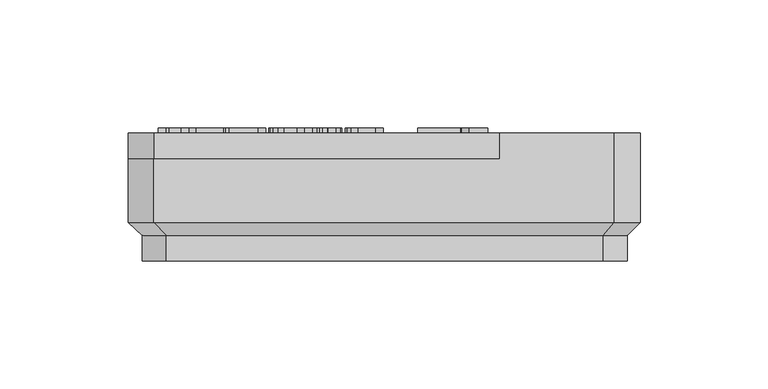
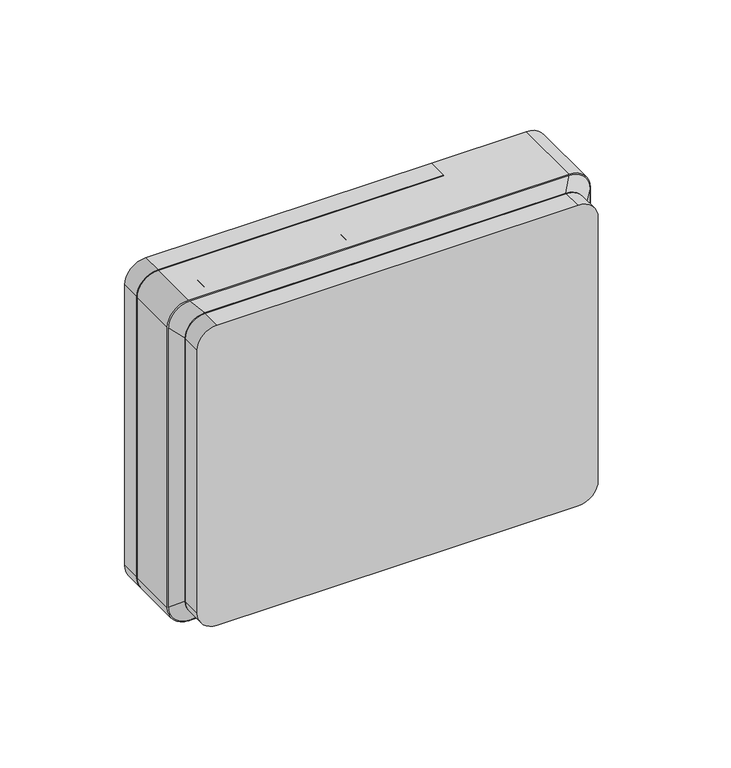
"""IFC4 building model written with IfcOpenShell, lengths in millimetres: proxy geometry, RBZ_БлокИндикацииИУправления_Рубеж_Рубеж-БИУ(БИ) : Рубеж-БИУ."""

from ifc_helpers import new_model, si_unit, point, frame, frame_2d, origin, place, context, project, spatial, polyline, circle_curve, trimmed, segment, composite_curve, outline, extrude, source, transform, mapped, element, save
from ifc_brep_helpers import plane_surface, cylinder_surface, revolved_surface, spline_surface, advanced_brep


def electrical_equipment_3322614a(model_context):
    return source(origin(), model_context, "Body", "SolidModel", [
        extrude(outline(composite_curve([segment(polyline([(57.5, 44.75), (160.0, 44.75), (160.0, -90.25)]), True, "CONTINUOUS"), segment(trimmed(circle_curve(frame_2d((150.0, -90.25)), 10.0), [point((160.0, -90.25))], [point((150.0, -100.25))], False, "CARTESIAN"), True, "CONTINUOUS"), segment(polyline([(150.0, -100.25), (10.0, -100.25)]), True, "CONTINUOUS"), segment(trimmed(circle_curve(frame_2d((10.0, -90.25)), 10.0), [point((10.0, -100.25))], [point((0.0, -90.25))], False, "CARTESIAN"), True, "CONTINUOUS"), segment(polyline([(0.0, -90.25), (0.0, 44.75), (32.5, 44.75)]), True, "CONTINUOUS"), segment(trimmed(circle_curve(frame_2d((45.0, 44.75)), 12.5), [point((32.5, 44.75))], [point((57.5, 44.75))], False, "CARTESIAN"), True, "CONTINUOUS")], self_intersect=False)), frame((0.0, 40.0, 0.0), z_axis=(0.0, 1.0, 0.0), x_axis=(0.0, 0.0, 1.0)), (0.0, 0.0, 1.0), 10.0),
        advanced_brep(
        [(89.75, 50.0, 160.0), (99.75, 50.0, 150.0), (99.75, 50.0, 10.0), (89.75, 50.0, 0.0), (44.75, 50.0, 0.0), (44.75, 50.0, 32.5), (44.75, 50.0, 57.5), (44.75, 50.0, 160.0), (-90.25, 15.0, 0.0), (89.75, 15.0, 0.0), (99.75, 15.0, 10.0), (99.75, 15.0, 150.0), (89.75, 15.0, 160.0), (-90.25, 15.0, 160.0), (-100.25, 15.0, 150.0), (-100.25, 15.0, 10.0), (-90.25, 40.0, 0.0), (44.75, 40.0, 0.0), (44.75, 40.0, 160.0), (-90.25, 40.0, 160.0), (-100.25, 40.0, 150.0), (-100.25, 40.0, 10.0), (44.75, 40.0, 57.5), (44.75, 40.0, 32.5)],
        [
            (0, 1, circle_curve(frame((89.75, 50.0, 150.0), z_axis=(0.0, 1.0, 0.0), x_axis=(-1.0, 0.0, 0.0)), 10.0)),
            (1, 2),
            (2, 3, circle_curve(frame((89.75, 50.0, 10.0), z_axis=(0.0, 1.0, 0.0), x_axis=(-1.0, 0.0, 0.0)), 10.0)),
            (3, 4),
            (4, 5),
            (5, 6, circle_curve(frame((44.75, 50.0, 45.0), z_axis=(0.0, -1.0, 0.0), x_axis=(1.0, 0.0, 0.0)), 12.5)),
            (6, 7),
            (7, 0),
            (8, 9),
            (9, 10, circle_curve(frame((89.75, 15.0, 10.0), z_axis=(0.0, -1.0, 0.0), x_axis=(-1.0, 0.0, 0.0)), 10.0)),
            (10, 11),
            (11, 12, circle_curve(frame((89.75, 15.0, 150.0), z_axis=(0.0, -1.0, 0.0), x_axis=(-1.0, 0.0, 0.0)), 10.0)),
            (12, 13),
            (13, 14, circle_curve(frame((-90.25, 15.0, 150.0), z_axis=(0.0, -1.0, 0.0), x_axis=(-1.0, 0.0, 0.0)), 10.0)),
            (14, 15),
            (15, 8, circle_curve(frame((-90.25, 15.0, 10.0), z_axis=(0.0, -1.0, 0.0), x_axis=(-1.0, 0.0, 0.0)), 10.0)),
            (8, 16),
            (16, 17),
            (17, 4),
            (3, 9),
            (2, 10),
            (1, 11),
            (0, 12),
            (7, 18),
            (18, 19),
            (19, 13),
            (19, 20, circle_curve(frame((-90.25, 40.0, 150.0), z_axis=(0.0, -1.0, 0.0), x_axis=(-1.0, 0.0, 0.0)), 10.0)),
            (20, 14),
            (20, 21),
            (21, 15),
            (21, 16, circle_curve(frame((-90.25, 40.0, 10.0), z_axis=(0.0, -1.0, 0.0), x_axis=(-1.0, 0.0, 0.0)), 10.0)),
            (18, 22),
            (22, 23, circle_curve(frame((44.75, 40.0, 45.0), z_axis=(0.0, 1.0, 0.0), x_axis=(1.0, 0.0, 0.0)), 12.5)),
            (23, 17),
            (6, 22),
            (5, 23),
        ],
        [
            plane_surface(frame((-100.25, 50.0, 10.0), z_axis=(0.0, 1.0, 0.0), x_axis=(0.0, 0.0, 1.0))),
            plane_surface(frame((-100.25, 15.0, 10.0), z_axis=(0.0, -1.0, 0.0), x_axis=(0.0, 0.0, -1.0))),
            plane_surface(frame((89.75, 50.0, 0.0), z_axis=(0.0, 0.0, -1.0), x_axis=(0.0, -1.0, 0.0))),
            cylinder_surface(frame((89.75, 15.0, 10.0), z_axis=(0.0, 1.0, 0.0), x_axis=(-1.0, 0.0, 0.0)), 10.0),
            plane_surface(frame((99.75, 50.0, 150.0), z_axis=(1.0, 0.0, 0.0), x_axis=(0.0, -1.0, 0.0))),
            cylinder_surface(frame((89.75, 15.0, 150.0), z_axis=(0.0, 1.0, 0.0), x_axis=(-1.0, 0.0, 0.0)), 10.0),
            plane_surface(frame((-90.25, 50.0, 160.0), z_axis=(0.0, 0.0, 1.0), x_axis=(0.0, -1.0, 0.0))),
            cylinder_surface(frame((-90.25, 15.0, 150.0), z_axis=(0.0, 1.0, 0.0), x_axis=(-1.0, 0.0, 0.0)), 10.0),
            plane_surface(frame((-100.25, 50.0, 10.0), z_axis=(-1.0, 0.0, 0.0), x_axis=(0.0, -1.0, 0.0))),
            cylinder_surface(frame((-90.25, 15.0, 10.0), z_axis=(0.0, 1.0, 0.0), x_axis=(-1.0, 0.0, 0.0)), 10.0),
            plane_surface(frame((-100.25, 40.0, 10.0), z_axis=(0.0, 1.0, 0.0), x_axis=(0.0, 0.0, -1.0))),
            plane_surface(frame((44.75, 40.0, 57.5), z_axis=(-1.0, 0.0, 0.0), x_axis=(0.0, 1.0, 0.0))),
            revolved_surface(polyline([(57.25, 40.0, 45.0), (57.25, 50.0, 45.0)]), (44.75, 50.0, 45.0), (0.0, -1.0, 0.0)),
            plane_surface(frame((44.75, 40.0, 0.0), z_axis=(-1.0, 0.0, 0.0), x_axis=(0.0, 1.0, 0.0))),
        ],
        [
            (0, [[1, 2, 3, 4, 5, 6, 7, 8]]),
            (1, [[9, 10, 11, 12, 13, 14, 15, 16]]),
            (2, [[-9, 17, 18, 19, -4, 20]]),
            (3, [[-3, 21, -10, -20]]),
            (4, [[-2, 22, -11, -21]]),
            (5, [[-1, 23, -12, -22]]),
            (6, [[-13, -23, -8, 24, 25, 26]]),
            (7, [[-14, -26, 27, 28]]),
            (8, [[-15, -28, 29, 30]]),
            (9, [[-16, -30, 31, -17]]),
            (10, [[32, 33, 34, -18, -31, -29, -27, -25]]),
            (11, [[-32, -24, -7, 35]]),
            (12, [[-33, -35, -6, 36]]),
            (13, [[-34, -36, -5, -19]]),
        ],
    ),
        advanced_brep(
        [(89.75, 15.0, 160.0), (99.75, 15.0, 150.0), (99.75, 15.0, 10.0), (89.75, 15.0, 0.0), (-90.25, 15.0, 0.0), (-100.25, 15.0, 10.0), (-100.25, 15.0, 150.0), (-90.25, 15.0, 160.0), (85.375, 10.0, 155.0), (-85.375, 10.0, 155.0), (-94.75, 10.0, 145.625), (-94.75, 10.0, 14.375), (-85.375, 10.0, 5.0), (85.375, 10.0, 5.0), (94.75, 10.0, 14.375), (94.75, 10.0, 145.625)],
        [
            (0, 1, circle_curve(frame((89.75, 15.0, 150.0), z_axis=(0.0, 1.0, 0.0), x_axis=(0.0, 0.0, -1.0)), 10.0)),
            (1, 2),
            (2, 3, circle_curve(frame((89.75, 15.0, 10.0), z_axis=(0.0, 1.0, 0.0), x_axis=(0.0, 0.0, -1.0)), 10.0)),
            (3, 4),
            (4, 5, circle_curve(frame((-90.25, 15.0, 10.0), z_axis=(0.0, 1.0, 0.0), x_axis=(0.0, 0.0, -1.0)), 10.0)),
            (5, 6),
            (6, 7, circle_curve(frame((-90.25, 15.0, 150.0), z_axis=(0.0, 1.0, 0.0), x_axis=(0.0, 0.0, -1.0)), 10.0)),
            (7, 0),
            (8, 9),
            (9, 10, circle_curve(frame((-85.375, 10.0, 145.625), z_axis=(0.0, -1.0, 0.0), x_axis=(0.0, 0.0, -1.0)), 9.375)),
            (10, 11),
            (11, 12, circle_curve(frame((-85.375, 10.0, 14.375), z_axis=(0.0, -1.0, 0.0), x_axis=(0.0, 0.0, -1.0)), 9.375)),
            (12, 13),
            (13, 14, circle_curve(frame((85.375, 10.0, 14.375), z_axis=(0.0, -1.0, 0.0), x_axis=(0.0, 0.0, -1.0)), 9.375)),
            (14, 15),
            (15, 8, circle_curve(frame((85.375, 10.0, 145.625), z_axis=(0.0, -1.0, 0.0), x_axis=(0.0, 0.0, -1.0)), 9.375)),
            (15, 1),
            (0, 8),
            (14, 2),
            (13, 3),
            (12, 4),
            (11, 5),
            (10, 6),
            (9, 7),
        ],
        [
            plane_surface(frame((-0.25, 15.0, 80.0), z_axis=(0.0, 1.0, 0.0), x_axis=(1.0, 0.0, 0.0))),
            plane_surface(frame((0.0, 10.0, 80.0), z_axis=(0.0, -1.0, 0.0), x_axis=(1.0, 0.0, 0.0))),
            spline_surface(2, 1, [[(85.375, 10.0, 155.0), (89.75, 15.0, 160.0)], [(94.75, 10.0, 155.0), (99.75, 15.0, 160.0)], [(94.75, 10.0, 145.625), (99.75, 15.0, 150.0)]], [3, 3], [2, 2], [0.0, 1.0], [0.0, 1.0], weights=[[1.0, 1.0], [0.7071067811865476, 0.7071067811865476], [1.0, 1.0]]),
            plane_surface(frame((94.75, 10.0, 80.0), z_axis=(0.7071067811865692, -0.7071067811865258, 0.0), x_axis=(0.0, 0.0, -1.0))),
            spline_surface(2, 1, [[(94.75, 10.0, 14.375), (99.75, 15.0, 10.0)], [(94.75, 10.0, 5.0), (99.75, 15.0, 0.0)], [(85.375, 10.0, 5.0), (89.75, 15.0, 0.0)]], [3, 3], [2, 2], [0.0, 1.0], [0.0, 1.0], weights=[[1.0, 1.0], [0.7071067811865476, 0.7071067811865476], [1.0, 1.0]]),
            plane_surface(frame((0.0, 10.0, 5.0), z_axis=(0.0, -0.7071067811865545, -0.7071067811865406), x_axis=(-1.0, 0.0, 0.0))),
            spline_surface(2, 1, [[(-85.375, 10.0, 5.0), (-90.25, 15.0, 0.0)], [(-94.75, 10.0, 5.0), (-100.25, 15.0, 0.0)], [(-94.75, 10.0, 14.375), (-100.25, 15.0, 10.0)]], [3, 3], [2, 2], [0.0, 1.0], [0.0, 1.0], weights=[[1.0, 1.0], [0.7071067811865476, 0.7071067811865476], [1.0, 1.0]]),
            plane_surface(frame((-94.75, 10.0, 80.0), z_axis=(-0.6726727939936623, -0.739940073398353, 0.0), x_axis=(0.0, 0.0, 1.0))),
            spline_surface(2, 1, [[(-94.75, 10.0, 145.625), (-100.25, 15.0, 150.0)], [(-94.75, 10.0, 155.0), (-100.25, 15.0, 160.0)], [(-85.375, 10.0, 155.0), (-90.25, 15.0, 160.0)]], [3, 3], [2, 2], [0.0, 1.0], [0.0, 1.0], weights=[[1.0, 1.0], [0.7071067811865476, 0.7071067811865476], [1.0, 1.0]]),
            plane_surface(frame((0.0, 10.0, 155.0), z_axis=(0.0, -0.7071067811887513, 0.7071067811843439), x_axis=(1.0, 0.0, 0.0))),
        ],
        [
            (0, [[1, 2, 3, 4, 5, 6, 7, 8]]),
            (1, [[9, 10, 11, 12, 13, 14, 15, 16]]),
            (2, [[-16, 17, -1, 18]]),
            (3, [[-15, 19, -2, -17]]),
            (4, [[-14, 20, -3, -19]]),
            (5, [[-13, 21, -4, -20]]),
            (6, [[-12, 22, -5, -21]]),
            (7, [[-11, 23, -6, -22]]),
            (8, [[-10, 24, -7, -23]]),
            (9, [[-9, -18, -8, -24]]),
        ],
    ),
        extrude(outline(composite_curve([segment(trimmed(circle_curve(frame_2d((14.375, 85.375)), 9.375), [point((5.0, 85.375))], [point((14.375, 94.75))], False, "CARTESIAN"), True, "CONTINUOUS"), segment(polyline([(14.375, 94.75), (145.625, 94.75)]), True, "CONTINUOUS"), segment(trimmed(circle_curve(frame_2d((145.625, 85.375)), 9.375), [point((145.625, 94.75))], [point((155.0, 85.375))], False, "CARTESIAN"), True, "CONTINUOUS"), segment(polyline([(155.0, 85.375), (155.0, -85.375)]), True, "CONTINUOUS"), segment(trimmed(circle_curve(frame_2d((145.625, -85.375)), 9.375), [point((155.0, -85.375))], [point((145.625, -94.75))], False, "CARTESIAN"), True, "CONTINUOUS"), segment(polyline([(145.625, -94.75), (14.375, -94.75)]), True, "CONTINUOUS"), segment(trimmed(circle_curve(frame_2d((14.375, -85.375)), 9.375), [point((14.375, -94.75))], [point((5.0, -85.375))], False, "CARTESIAN"), True, "CONTINUOUS"), segment(polyline([(5.0, -85.375), (5.0, 85.375)]), True, "CONTINUOUS")], self_intersect=False)), frame((0.0, 0.0, 0.0), z_axis=(0.0, 1.0, 0.0), x_axis=(0.0, 0.0, 1.0)), (0.0, 0.0, 1.0), 10.0),
        extrude(outline(polyline([(51.0507605, 29.7628), (51.0507605, 12.9121739), (42.8357533, 16.2312523), (42.8357533, 19.4440673), (34.1781969, 13.1539844), (34.1781969, 17.7343439), (38.0262884, 20.2333237), (38.0262884, 40.2333237), (56.1441166, 32.913246), (52.4029444, 30.1951252), (41.5787184, 34.5683964), (41.5787184, 23.1657907), (45.9600527, 26.0110625), (45.9600527, 18.8626856), (47.4649656, 18.2546613), (47.4649656, 27.1336984), (42.8357533, 29.0040216), (42.8357533, 33.0818784), (51.0507605, 29.7628)])), frame((0.0, 50.0, 0.0), z_axis=(0.0, 1.0, 0.0), x_axis=(0.0, 0.0, 1.0)), (0.0, 0.0, 1.0), 2.0),
        extrude(outline(polyline([(35.6780225, -3.5048152), (35.6780225, -0.5366498), (50.9819135, -3.6566395), (50.9819135, -10.4507776), (50.6213307, -13.1798197), (49.3004592, -14.754997), (46.9737515, -15.354703), (43.7531782, -14.1951448), (42.1798988, -10.6936965), (40.7527502, -11.8171965), (35.6780225, -14.1401085), (35.6780225, -10.9821627), (39.7051624, -9.285526), (41.694061, -7.8204214), (41.993914, -6.1579451), (35.6780225, -3.5048152)]), holes=[polyline([(44.1801841, -5.239408), (44.1801841, -7.0081613), (44.5028108, -10.5684415), (45.5124425, -11.9424515), (48.5527244, -9.8055243), (48.5527244, -6.1313759), (44.1801841, -5.239408)])]), frame((0.0, 50.0, 0.0), z_axis=(0.0, 1.0, 0.0), x_axis=(0.0, 0.0, 1.0)), (0.0, 0.0, 1.0), 2.0),
        extrude(outline(polyline([(50.9819135, -18.9833042), (50.9819135, -21.9514695), (42.6050069, -20.2472416), (40.5781523, -19.8335203), (38.1072115, -22.4335117), (38.5228306, -24.4205125), (39.7583009, -25.635107), (42.5404815, -26.506199), (50.9819135, -28.2142225), (50.9819135, -31.1785923), (42.293767, -29.4212259), (38.441225, -28.1477994), (36.2720351, -25.9672227), (35.4351036, -22.2703006), (36.7256102, -18.1786353), (40.0429715, -16.7590779), (42.8213565, -17.3246235), (50.9819135, -18.9833042)])), frame((0.0, 50.0, 0.0), z_axis=(0.0, 1.0, 0.0), x_axis=(0.0, 0.0, 1.0)), (0.0, 0.0, 1.0), 2.0),
        extrude(outline(polyline([(35.6780225, -31.1444318), (50.9819135, -34.2682171), (50.9819135, -39.4264482), (50.8756364, -41.7759295), (50.2474633, -43.658551), (48.9892193, -44.8313939), (47.2470353, -45.2337283), (45.0285025, -44.5713947), (43.6070473, -42.5236643), (42.458876, -44.1595713), (40.5933347, -44.7478905), (37.9914455, -43.9830755), (36.2188966, -41.8727175), (35.6780225, -38.1890801), (35.6780225, -31.1444318)]), holes=[polyline([(44.6660219, -35.9420802), (44.6660219, -38.431999), (44.9127365, -40.8460056), (48.5527244, -39.2670327), (48.5527244, -36.7353622), (44.6660219, -35.9420802)]), polyline([(38.1072115, -34.6060262), (38.1072115, -37.7260159), (38.3615172, -40.35827), (42.2368329, -39.3163756), (42.2368329, -35.4486512), (38.1072115, -34.6060262)])]), frame((0.0, 50.0, 0.0), z_axis=(0.0, 1.0, 0.0), x_axis=(0.0, 0.0, 1.0)), (0.0, 0.0, 1.0), 2.0),
        extrude(outline(polyline([(35.6780225, -46.4483228), (50.9819135, -49.5683125), (50.9819135, -60.7805382), (48.5527244, -60.0517815), (48.5527244, -52.0392532), (44.9089409, -51.2991097), (44.9089409, -59.5659437), (42.4797518, -58.837187), (42.4797518, -50.8018851), (38.1072115, -49.9099172), (38.1072115, -58.837187), (35.6780225, -58.1084303), (35.6780225, -46.4483228)])), frame((0.0, 50.0, 0.0), z_axis=(0.0, 1.0, 0.0), x_axis=(0.0, 0.0, 1.0)), (0.0, 0.0, 1.0), 2.0),
        extrude(outline(polyline([(35.6780225, -60.0517815), (38.1072115, -60.560393), (48.5527244, -69.3054735), (48.5527244, -62.2380516), (50.9819135, -62.9668084), (50.9819135, -73.6552402), (48.5527244, -73.1694024), (38.0578686, -64.4243218), (38.0882335, -66.0146815), (38.1072115, -68.6943807), (38.1072115, -72.1977267), (35.6780225, -71.46897), (35.6780225, -60.0517815)])), frame((0.0, 50.0, 0.0), z_axis=(0.0, 1.0, 0.0), x_axis=(0.0, 0.0, 1.0)), (0.0, 0.0, 1.0), 2.0),
        extrude(outline(polyline([(42.7226707, -83.8388561), (42.7226707, -77.819022), (35.6780225, -76.3804866), (35.6780225, -73.4123213), (50.9819135, -76.5323109), (50.9819135, -79.4966807), (45.1518598, -78.3086554), (45.1518598, -84.3284895), (50.9819135, -85.5203104), (50.9819135, -88.4846802), (35.6780225, -85.3684861), (35.6780225, -82.4003207), (42.7226707, -83.8388561)])), frame((0.0, 50.0, 0.0), z_axis=(0.0, 1.0, 0.0), x_axis=(0.0, 0.0, 1.0)), (0.0, 0.0, 1.0), 2.0),
        extrude(outline(polyline([(139.2842599, 10.6293935), (139.2842599, 12.6081704), (149.4868539, 10.5281773), (149.4868539, 6.3681911), (149.2262221, 4.6146202), (148.3633539, 3.5923365), (146.9235534, 3.2153061), (145.4204926, 3.5189548), (144.2501802, 4.2654243), (143.5846836, 5.2168567), (143.2418137, 6.5883363), (143.1709624, 8.4709578), (143.1709624, 9.8348463), (139.2842599, 10.6293935)]), holes=[polyline([(144.7904217, 9.5058936), (145.0080366, 6.4390424), (145.7064284, 5.5015273), (146.7616074, 5.1586574), (147.8673945, 7.2563633), (147.8673945, 8.8783531), (144.7904217, 9.5058936)])]), frame((0.0, 40.0, 0.0), z_axis=(0.0, 1.0, 0.0), x_axis=(0.0, 0.0, 1.0)), (0.0, 0.0, 1.0), 2.0),
        extrude(outline(polyline([(149.4868539, 1.977938), (149.4868539, -0.0236126), (144.036361, -1.2837544), (149.4868539, -5.2058826), (149.4868539, -7.5616899), (140.8733544, -0.9674538), (139.460123, 0.3888435), (139.1223139, 1.7071846), (139.2690774, 3.0533602), (140.8328679, 2.7294683), (140.7417733, 1.9501035), (140.902454, 1.135313), (142.1714523, 0.0573604), (149.4868539, 1.977938)])), frame((0.0, 40.0, 0.0), z_axis=(0.0, 1.0, 0.0), x_axis=(0.0, 0.0, 1.0)), (0.0, 0.0, 1.0), 2.0),
        extrude(outline(polyline([(147.8673945, -10.0870343), (145.6001514, -9.6214397), (145.6001514, -11.3927234), (145.3357241, -13.7611827), (144.3665788, -14.9821033), (142.7154894, -15.4084766), (140.2534051, -14.3583584), (139.2842599, -11.2636728), (139.2842599, -6.3395041), (149.4868539, -8.4448013), (149.4868539, -15.8841928), (147.8673945, -15.4464327), (147.8673945, -10.0870343)]), holes=[polyline([(140.9037192, -8.6522945), (140.9037192, -10.8436255), (141.0302395, -12.2745697), (141.5742766, -13.107073), (142.5687259, -13.4651253), (143.4214725, -13.1829851), (143.8756802, -12.4441068), (143.980692, -11.0587099), (143.980692, -9.2848958), (140.9037192, -8.6522945)])]), frame((0.0, 40.0, 0.0), z_axis=(0.0, 1.0, 0.0), x_axis=(0.0, 0.0, 1.0)), (0.0, 0.0, 1.0), 2.0),
        extrude(outline(polyline([(139.2842599, -16.3801522), (149.4868539, -18.4601453), (149.4868539, -25.9349624), (147.8673945, -25.4491246), (147.8673945, -20.1074391), (145.4382055, -19.6140101), (145.4382055, -25.1252328), (143.8187461, -24.639395), (143.8187461, -19.282527), (140.9037192, -18.6878818), (140.9037192, -24.639395), (139.2842599, -24.1535571), (139.2842599, -16.3801522)])), frame((0.0, 40.0, 0.0), z_axis=(0.0, 1.0, 0.0), x_axis=(0.0, 0.0, 1.0)), (0.0, 0.0, 1.0), 2.0),
        extrude(outline(polyline([(149.4868539, -32.4127999), (149.4868539, -34.3915768), (145.1143136, -33.4907525), (145.478692, -34.3903116), (147.3107054, -35.6618403), (148.5936208, -36.5133216), (149.2325482, -37.4343891), (149.4868539, -38.9210022), (149.4868539, -39.7079583), (147.8344992, -39.3410495), (147.6042324, -37.8860665), (146.2985433, -37.0459719), (144.3855569, -35.2696274), (142.6142732, -36.4007186), (139.2842599, -37.4331239), (139.2842599, -35.4062693), (142.1663915, -34.5130363), (143.2506701, -33.912065), (143.4948542, -33.1542086), (139.2842599, -32.2862796), (139.2842599, -30.3075027), (143.4948542, -31.1754317), (139.2842599, -27.455736), (139.2842599, -25.1429456), (142.887557, -27.5923779), (144.3855569, -29.6318845), (145.0915399, -28.9689183), (146.7034081, -28.5362191), (147.6801445, -28.2452224), (149.4868539, -27.349459), (149.2338134, -29.1473119), (148.494935, -29.7811784), (147.0222392, -30.259425), (145.4002494, -30.7541193), (149.4868539, -32.4127999)])), frame((0.0, 40.0, 0.0), z_axis=(0.0, 1.0, 0.0), x_axis=(0.0, 0.0, 1.0)), (0.0, 0.0, 1.0), 2.0),
        extrude(outline(polyline([(143.980692, -39.0525833), (143.980692, -42.9392858), (142.0373408, -42.6153939), (142.0373408, -38.7286914), (143.980692, -39.0525833)])), frame((0.0, 40.0, 0.0), z_axis=(0.0, 1.0, 0.0), x_axis=(0.0, 0.0, 1.0)), (0.0, 0.0, 1.0), 2.0),
        extrude(outline(polyline([(147.8673945, -47.3345997), (145.6001514, -46.8690051), (145.6001514, -48.6402888), (145.3357241, -51.0087481), (144.3665788, -52.2296687), (142.7154894, -52.656042), (140.2534051, -51.6059238), (139.2842599, -48.5112382), (139.2842599, -43.5870695), (149.4868539, -45.6923667), (149.4868539, -53.1317582), (147.8673945, -52.693998), (147.8673945, -47.3345997)]), holes=[polyline([(140.9037192, -45.8998599), (140.9037192, -48.0911909), (141.0302395, -49.5221351), (141.5742766, -50.3546384), (142.5687259, -50.7126907), (143.4214725, -50.4305505), (143.8756802, -49.6916722), (143.980692, -48.3062753), (143.980692, -46.5324612), (140.9037192, -45.8998599)])]), frame((0.0, 40.0, 0.0), z_axis=(0.0, 1.0, 0.0), x_axis=(0.0, 0.0, 1.0)), (0.0, 0.0, 1.0), 2.0),
        extrude(outline(polyline([(149.4868539, -55.7330148), (149.4868539, -57.7092613), (143.1608407, -56.4035722), (149.4868539, -61.7326056), (149.4868539, -63.7012609), (139.2842599, -61.5984941), (139.2842599, -59.6197172), (145.6811244, -60.9380584), (139.2842599, -55.5735992), (139.2842599, -53.6277176), (149.4868539, -55.7330148)])), frame((0.0, 40.0, 0.0), z_axis=(0.0, 1.0, 0.0), x_axis=(0.0, 0.0, 1.0)), (0.0, 0.0, 1.0), 2.0),
        extrude(outline(polyline([(149.4868539, -65.0676798), (149.4868539, -67.0692303), (144.036361, -68.3293721), (149.4868539, -72.2515003), (149.4868539, -74.6073076), (140.8733544, -68.0130715), (139.460123, -66.6567743), (139.1223139, -65.3384331), (139.2690774, -63.9922575), (140.8328679, -64.3161494), (140.7417733, -65.0955142), (140.902454, -65.9103047), (142.1714523, -66.9882573), (149.4868539, -65.0676798)])), frame((0.0, 40.0, 0.0), z_axis=(0.0, 1.0, 0.0), x_axis=(0.0, 0.0, 1.0)), (0.0, 0.0, 1.0), 2.0),
    ])


if __name__ == "__main__":
    model = new_model("IFC4")
    model_context = context("Model", 3, world=origin())
    ifc_project = project(units=[si_unit("LENGTHUNIT", "METRE", prefix="MILLI")], contexts=[model_context])
    site = spatial("IfcSite", under=ifc_project)
    building = spatial("IfcBuilding", under=site)
    placement = place(None, origin())
    electrical_equipment_shape = electrical_equipment_3322614a(model_context)
    element("IfcBuildingElementProxy", 1, Name="RBZ_БлокИндикацииИУправления_Рубеж_Рубеж-БИУ(БИ) : Рубеж-БИУ", ObjectType="RBZ_БлокИндикацииИУправления_Рубеж_Рубеж-БИУ(БИ) : Рубеж-БИУ", at=placement, inside=building, context=model_context, shape_type="MappedRepresentation", body=[
        mapped(electrical_equipment_shape, transform((0.0, 0.0, 0.0), x_axis=(1.0, 0.0, 0.0), y_axis=(0.0, 1.0, 0.0), z_axis=(0.0, 0.0, 1.0))),
    ])
    save(model, "model.ifc")
